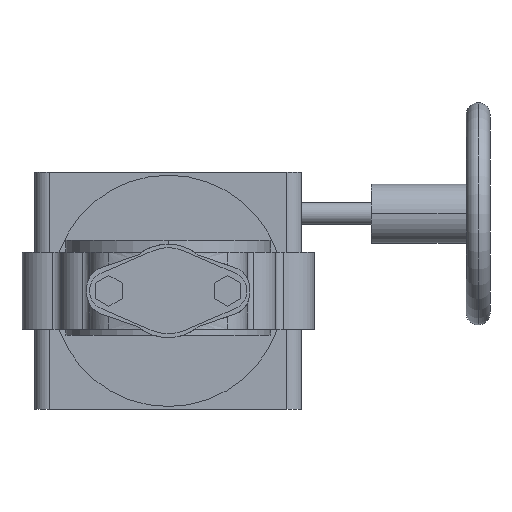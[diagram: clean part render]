
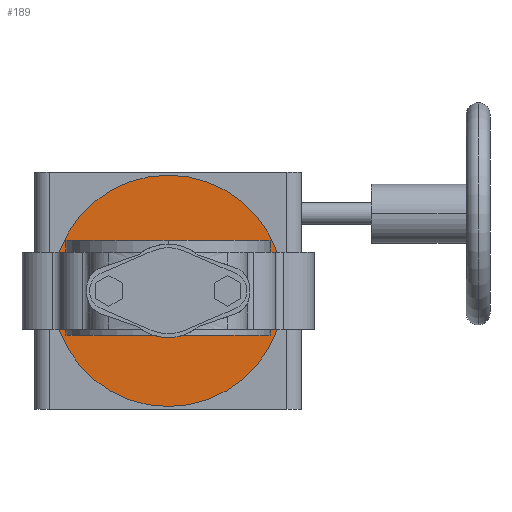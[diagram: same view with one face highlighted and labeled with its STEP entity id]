
A CAD part, front view. The second image highlights one B-rep face of the part: STEP entity #189.
In plain terms, the highlighted planar face has unit normal (0, -1, 0).
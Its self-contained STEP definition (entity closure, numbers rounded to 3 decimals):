
#189 = ADVANCED_FACE( '', ( #571, #572 ), #573, .T. );
#571 = FACE_OUTER_BOUND( '', #1226, .T. );
#572 = FACE_BOUND( '', #1227, .T. );
#573 = PLANE( '', #1228 );
#1226 = EDGE_LOOP( '', ( #2263, #2264 ) );
#1227 = EDGE_LOOP( '', ( #2265, #2266, #2267, #2268 ) );
#1228 = AXIS2_PLACEMENT_3D( '', #2269, #2270, #2271 );
#2263 = ORIENTED_EDGE( '', *, *, #4348, .F. );
#2264 = ORIENTED_EDGE( '', *, *, #4476, .F. );
#2265 = ORIENTED_EDGE( '', *, *, #4477, .T. );
#2266 = ORIENTED_EDGE( '', *, *, #4478, .T. );
#2267 = ORIENTED_EDGE( '', *, *, #4479, .T. );
#2268 = ORIENTED_EDGE( '', *, *, #4480, .T. );
#2269 = CARTESIAN_POINT( '', ( 44.5, 175., 0. ) );
#2270 = DIRECTION( '', ( 0., -1., 0. ) );
#2271 = DIRECTION( '', ( -1., 0., 0. ) );
#4348 = EDGE_CURVE( '', #5250, #5253, #5254, .T. );
#4476 = EDGE_CURVE( '', #5253, #5250, #5465, .T. );
#4477 = EDGE_CURVE( '', #5466, #5467, #5468, .T. );
#4478 = EDGE_CURVE( '', #5467, #5469, #5470, .T. );
#4479 = EDGE_CURVE( '', #5469, #5471, #5472, .T. );
#4480 = EDGE_CURVE( '', #5471, #5466, #5473, .T. );
#5250 = VERTEX_POINT( '', #6848 );
#5253 = VERTEX_POINT( '', #6852 );
#5254 = CIRCLE( '', #6853, 78. );
#5465 = CIRCLE( '', #7281, 78. );
#5466 = VERTEX_POINT( '', #7282 );
#5467 = VERTEX_POINT( '', #7283 );
#5468 = LINE( '', #7284, #7285 );
#5469 = VERTEX_POINT( '', #7286 );
#5470 = LINE( '', #7287, #7288 );
#5471 = VERTEX_POINT( '', #7289 );
#5472 = LINE( '', #7290, #7291 );
#5473 = LINE( '', #7292, #7293 );
#6848 = CARTESIAN_POINT( '', ( 78., 175., 0. ) );
#6852 = CARTESIAN_POINT( '', ( -78., 175., 0. ) );
#6853 = AXIS2_PLACEMENT_3D( '', #8972, #8973, #8974 );
#7281 = AXIS2_PLACEMENT_3D( '', #9207, #9208, #9209 );
#7282 = CARTESIAN_POINT( '', ( 41.5, 175., 26. ) );
#7283 = CARTESIAN_POINT( '', ( 41.5, 175., -26. ) );
#7284 = CARTESIAN_POINT( '', ( 41.5, 175., 26. ) );
#7285 = VECTOR( '', #9210, 1. );
#7286 = CARTESIAN_POINT( '', ( -41.5, 175., -26. ) );
#7287 = CARTESIAN_POINT( '', ( 41.5, 175., -26. ) );
#7288 = VECTOR( '', #9211, 1. );
#7289 = CARTESIAN_POINT( '', ( -41.5, 175., 26. ) );
#7290 = CARTESIAN_POINT( '', ( -41.5, 175., -26. ) );
#7291 = VECTOR( '', #9212, 1. );
#7292 = CARTESIAN_POINT( '', ( -41.5, 175., 26. ) );
#7293 = VECTOR( '', #9213, 1. );
#8972 = CARTESIAN_POINT( '', ( 0., 175., 0. ) );
#8973 = DIRECTION( '', ( 0., 1., 0. ) );
#8974 = DIRECTION( '', ( 1., 0., 0. ) );
#9207 = CARTESIAN_POINT( '', ( 0., 175., 0. ) );
#9208 = DIRECTION( '', ( 0., 1., 0. ) );
#9209 = DIRECTION( '', ( 1., 0., 0. ) );
#9210 = DIRECTION( '', ( 0., 0., -1. ) );
#9211 = DIRECTION( '', ( -1., 0., 0. ) );
#9212 = DIRECTION( '', ( 0., 0., 1. ) );
#9213 = DIRECTION( '', ( 1., 0., 0. ) );
